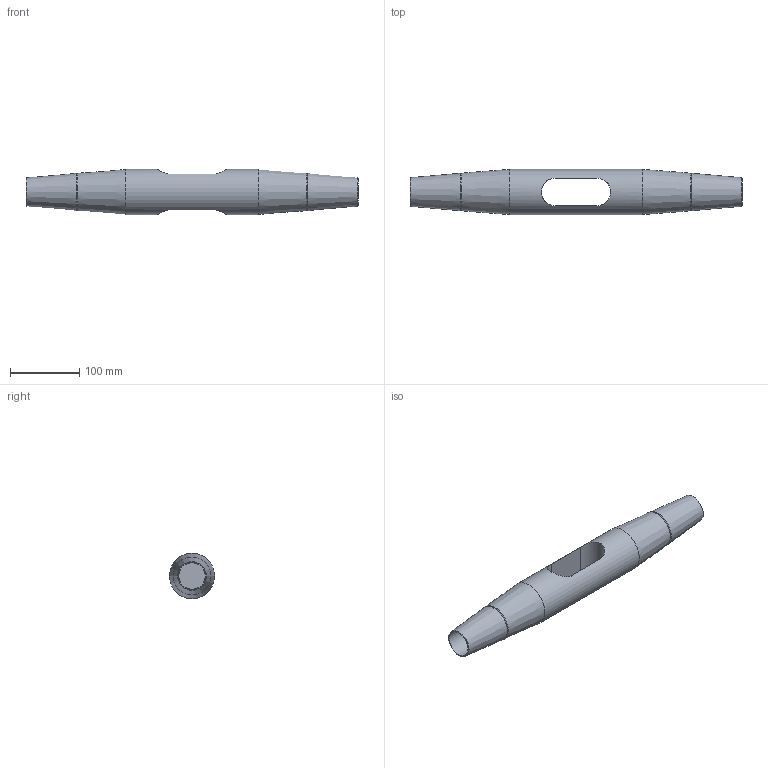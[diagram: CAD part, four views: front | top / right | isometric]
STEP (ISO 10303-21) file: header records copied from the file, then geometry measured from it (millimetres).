
FILE_DESCRIPTION(/* description */ (''),/* implementation_level */ '2;1');
FILE_NAME(/* name */ 'G:\Engineering\700 CAD\Internet-PX-1-step-igs-dxf\520-KMF-Arbeitsdateien\520-036-KMF.stp',/* time_stamp */ '2020-07-02T13:22:53+02:00',/* author */ ('schwarz'),/* organization */ (''),/* preprocessor_version */ 'ST-DEVELOPER v16.1',/* originating_system */ 'Autodesk Inventor 2016',/* authorisation */ '');
FILE_SCHEMA (('AUTOMOTIVE_DESIGN { 1 0 10303 214 3 1 1 }'));
Length unit declared in the file: centimetre
Products named in the file (1): Kreuzmuffen-Set 520 036 Kunde
Bounding box: 478 x 65 x 65 mm (x, y, z)
Volume: 940908.1 mm3; surface area: 109030.2 mm2
Topology: 1 solids, 1 shells, 21 faces, 41 edges, 24 vertices
Faces by surface type: cone 10, plane 6, cylinder 5
Full cylindrical faces by diameter (mm): 38 x2, 65 x1
Entity records: 653 total; most frequent: CARTESIAN_POINT 206, DIRECTION 84, ORIENTED_EDGE 56, EDGE_LOOP 38, AXIS2_PLACEMENT_3D 38, EDGE_CURVE 28, VERTEX_POINT 24, STYLED_ITEM 22
